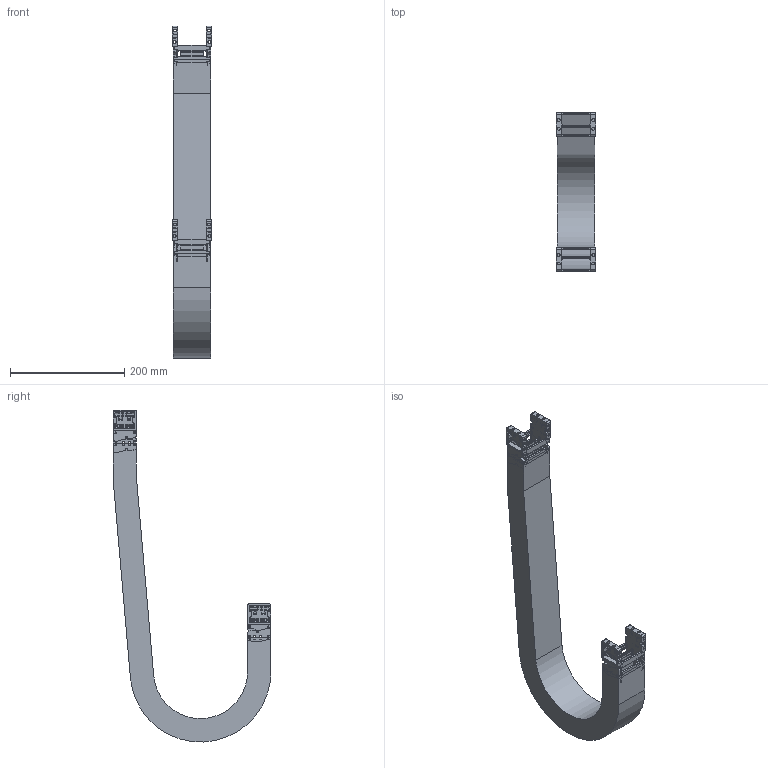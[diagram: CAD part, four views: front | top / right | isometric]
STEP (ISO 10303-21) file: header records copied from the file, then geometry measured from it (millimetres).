
FILE_DESCRIPTION((''),'2;1');
FILE_NAME('KST-30050-100_ASM','2017-12-06T',('KUNI004K'),(''),'PRO/ENGINEER BY PARAMETRIC TECHNOLOGY CORPORATION, 2015200','PRO/ENGINEER BY PARAMETRIC TECHNOLOGY CORPORATION, 2015200','');
FILE_SCHEMA(('AUTOMOTIVE_DESIGN { 1 0 10303 214 1 1 1 1 }'));
Length unit declared in the file: millimetre
Products named in the file (13): 30FBR; 30FBL; 25050C; 30FB_W050_ASM; 30100R; 30100L; 25050H; KST30050-100_1_ASM; KST30050_R100_BODY; 30MBR; 30MBL; 30MB_W050_ASM; KST-30050-100_ASM
Assembly tree (19 placements, depth 3):
  KST-30050-100_ASM
    30FB_W050_ASM
      30FBR
      30FBL
      25050C  x2
    KST30050-100_1_ASM  x2
      30100R
      30100L
      25050C
      25050H
    KST30050_R100_BODY
    30MB_W050_ASM
      30MBR
      30MBL
      25050C  x2
Bounding box: 70 x 277 x 582.18 mm (x, y, z)
Volume: 983860.3 mm3; surface area: 441023.5 mm2
Topology: 21 solids, 21 shells, 2620 faces, 7214 edges, 4656 vertices
Faces by surface type: plane 1346, cylinder 930, bspline 216, torus 64, sphere 64
Entity records: 71624 total; most frequent: CARTESIAN_POINT 15846, ORIENTED_EDGE 7552, DIRECTION 6722, PRESENTATION_STYLE_ASSIGNMENT 5124, STYLED_ITEM 5124, CURVE_STYLE 3776, EDGE_CURVE 3776, VERTEX_POINT 2464
